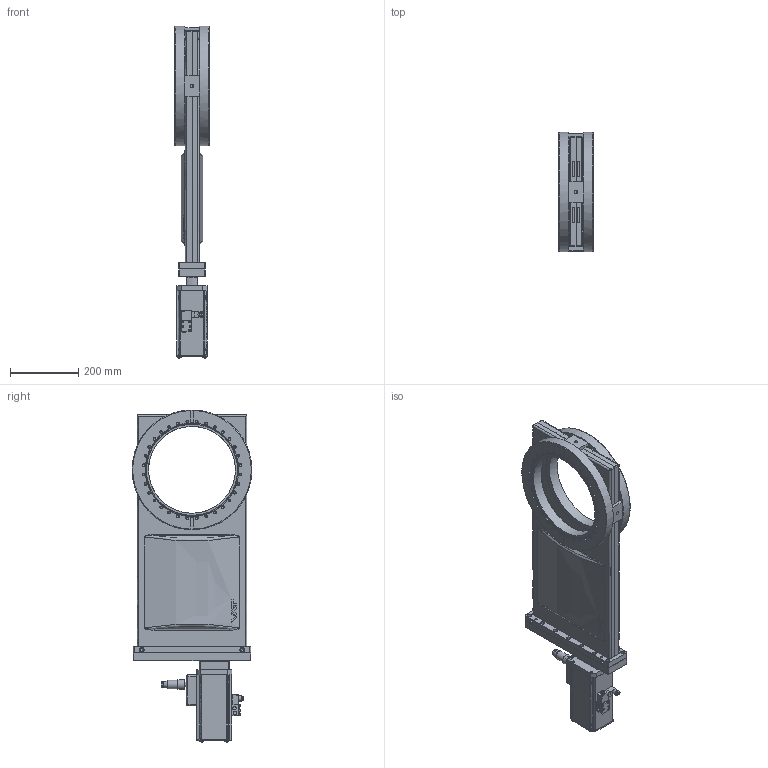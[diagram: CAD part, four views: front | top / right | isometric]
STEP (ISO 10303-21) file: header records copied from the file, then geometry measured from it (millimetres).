
FILE_DESCRIPTION((''),'2;1');
FILE_NAME('O:\MT\MT\Systeme\Cad\Datenexporte\www_vat_ch\207397.stp','2005-06-29T11:17:40',('User'),('SDRC'),'I-DEAS Master Series 9','UNIX','Yes');
FILE_SCHEMA(('CONFIG_CONTROL_DESIGN'));
Length unit declared in the file: millimetre
Assembly tree (43 placements, depth 0):
Bounding box: 100 x 350 x 971.5 mm (x, y, z)
Volume: 4658234 mm3; surface area: 1595860.7 mm2
Topology: 36 solids, 38 shells, 1618 faces, 3832 edges, 2510 vertices
Faces by surface type: bspline 1618
Entity records: 43161 total; most frequent: CARTESIAN_POINT 23117, ORIENTED_EDGE 5246, EDGE_CURVE 2621, VERTEX_POINT 1708, EDGE_LOOP 1461, FACE_OUTER_BOUND 1126, ADVANCED_FACE 1126, QUASI_UNIFORM_CURVE 883
